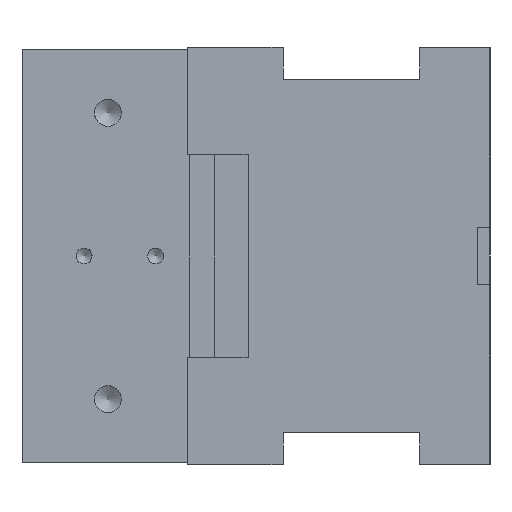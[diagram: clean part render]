
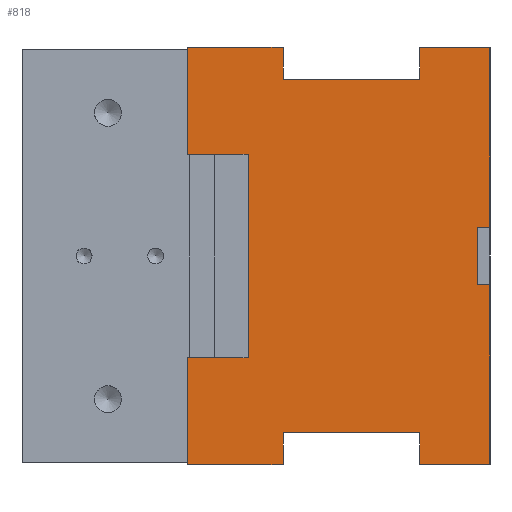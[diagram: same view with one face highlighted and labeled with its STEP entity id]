
A CAD part, left-side view. The second image highlights one B-rep face of the part: STEP entity #818.
In plain terms, the highlighted planar face has unit normal (-1, 0, 0).
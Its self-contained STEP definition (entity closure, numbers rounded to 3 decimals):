
#818=ADVANCED_FACE('',(#2070),#2072,.F.);
#2070=FACE_BOUND('',#2071,.T.);
#2071=EDGE_LOOP('',(#2886,#2887,#2888,#2889,#2890,#2891,#2892,#2893,#2894,#2895,
#2896,#2897,#2898,#2899,#2900,#2901,#2902,#2903,#2904,#2905));
#2072=PLANE('',#2073);
#2073=AXIS2_PLACEMENT_3D('',#2074,#2075,#2076);
#2074=CARTESIAN_POINT('',(-205.,0.,0.));
#2075=DIRECTION('',(1.,0.,-0.));
#2076=DIRECTION('',(-0.,0.,-1.));
#2886=ORIENTED_EDGE('',*,*,#3422,.F.);
#2887=ORIENTED_EDGE('',*,*,#3423,.F.);
#2888=ORIENTED_EDGE('',*,*,#3424,.T.);
#2889=ORIENTED_EDGE('',*,*,#3411,.F.);
#2890=ORIENTED_EDGE('',*,*,#3425,.F.);
#2891=ORIENTED_EDGE('',*,*,#3426,.F.);
#2892=ORIENTED_EDGE('',*,*,#3427,.F.);
#2893=ORIENTED_EDGE('',*,*,#3428,.F.);
#2894=ORIENTED_EDGE('',*,*,#3429,.F.);
#2895=ORIENTED_EDGE('',*,*,#3430,.F.);
#2896=ORIENTED_EDGE('',*,*,#3431,.F.);
#2897=ORIENTED_EDGE('',*,*,#3432,.F.);
#2898=ORIENTED_EDGE('',*,*,#3433,.F.);
#2899=ORIENTED_EDGE('',*,*,#3434,.F.);
#2900=ORIENTED_EDGE('',*,*,#3435,.F.);
#2901=ORIENTED_EDGE('',*,*,#3436,.F.);
#2902=ORIENTED_EDGE('',*,*,#3437,.F.);
#2903=ORIENTED_EDGE('',*,*,#3438,.F.);
#2904=ORIENTED_EDGE('',*,*,#3439,.F.);
#2905=ORIENTED_EDGE('',*,*,#3401,.F.);
#3401=EDGE_CURVE('',#3853,#3855,#3856,.T.);
#3411=EDGE_CURVE('',#3873,#3875,#3876,.T.);
#3422=EDGE_CURVE('',#3896,#3853,#3897,.T.);
#3423=EDGE_CURVE('',#3898,#3896,#3899,.T.);
#3424=EDGE_CURVE('',#3898,#3875,#3900,.T.);
#3425=EDGE_CURVE('',#3901,#3873,#3902,.T.);
#3426=EDGE_CURVE('',#3903,#3901,#3904,.T.);
#3427=EDGE_CURVE('',#3905,#3903,#3906,.T.);
#3428=EDGE_CURVE('',#3907,#3905,#3908,.T.);
#3429=EDGE_CURVE('',#3909,#3907,#3910,.T.);
#3430=EDGE_CURVE('',#3911,#3909,#3912,.T.);
#3431=EDGE_CURVE('',#3913,#3911,#3914,.T.);
#3432=EDGE_CURVE('',#3915,#3913,#3916,.T.);
#3433=EDGE_CURVE('',#3917,#3915,#3918,.T.);
#3434=EDGE_CURVE('',#3919,#3917,#3920,.T.);
#3435=EDGE_CURVE('',#3921,#3919,#3922,.T.);
#3436=EDGE_CURVE('',#3923,#3921,#3924,.T.);
#3437=EDGE_CURVE('',#3925,#3923,#3926,.T.);
#3438=EDGE_CURVE('',#3927,#3925,#3928,.T.);
#3439=EDGE_CURVE('',#3855,#3927,#3929,.T.);
#3853=VERTEX_POINT('',#6391);
#3855=VERTEX_POINT('',#6395);
#3856=LINE('',#6396,#6397);
#3873=VERTEX_POINT('',#6433);
#3875=VERTEX_POINT('',#6437);
#3876=LINE('',#6438,#6439);
#3896=VERTEX_POINT('',#6484);
#3897=LINE('',#6485,#6486);
#3898=VERTEX_POINT('',#6488);
#3899=LINE('',#6489,#6490);
#3900=LINE('',#6492,#6493);
#3901=VERTEX_POINT('',#6495);
#3902=LINE('',#6496,#6497);
#3903=VERTEX_POINT('',#6499);
#3904=LINE('',#6500,#6501);
#3905=VERTEX_POINT('',#6503);
#3906=LINE('',#6504,#6505);
#3907=VERTEX_POINT('',#6507);
#3908=LINE('',#6508,#6509);
#3909=VERTEX_POINT('',#6511);
#3910=LINE('',#6512,#6513);
#3911=VERTEX_POINT('',#6515);
#3912=LINE('',#6516,#6517);
#3913=VERTEX_POINT('',#6519);
#3914=LINE('',#6520,#6521);
#3915=VERTEX_POINT('',#6523);
#3916=LINE('',#6524,#6525);
#3917=VERTEX_POINT('',#6527);
#3918=LINE('',#6528,#6529);
#3919=VERTEX_POINT('',#6531);
#3920=LINE('',#6532,#6533);
#3921=VERTEX_POINT('',#6535);
#3922=LINE('',#6536,#6537);
#3923=VERTEX_POINT('',#6539);
#3924=LINE('',#6540,#6541);
#3925=VERTEX_POINT('',#6543);
#3926=LINE('',#6544,#6545);
#3927=VERTEX_POINT('',#6547);
#3928=LINE('',#6548,#6549);
#3929=LINE('',#6551,#6552);
#6391=CARTESIAN_POINT('',(-205.,0.,-9.));
#6395=CARTESIAN_POINT('',(-205.,0.,-65.5));
#6396=CARTESIAN_POINT('',(-205.,0.,-9.));
#6397=VECTOR('',#6398,1.);
#6398=DIRECTION('',(0.,0.,-1.));
#6433=CARTESIAN_POINT('',(-205.,0.,65.5));
#6437=CARTESIAN_POINT('',(-205.,-0.,9.));
#6438=CARTESIAN_POINT('',(-205.,0.,65.5));
#6439=VECTOR('',#6440,1.);
#6440=DIRECTION('',(0.,0.,-1.));
#6484=CARTESIAN_POINT('',(-205.,4.,-9.));
#6485=CARTESIAN_POINT('',(-205.,4.,-9.));
#6486=VECTOR('',#6487,1.);
#6487=DIRECTION('',(0.,-1.,0.));
#6488=CARTESIAN_POINT('',(-205.,4.,9.));
#6489=CARTESIAN_POINT('',(-205.,4.,9.));
#6490=VECTOR('',#6491,1.);
#6491=DIRECTION('',(0.,0.,-1.));
#6492=CARTESIAN_POINT('',(-205.,4.,9.));
#6493=VECTOR('',#6494,1.);
#6494=DIRECTION('',(0.,-1.,0.));
#6495=CARTESIAN_POINT('',(-205.,22.,65.5));
#6496=CARTESIAN_POINT('',(-205.,22.,65.5));
#6497=VECTOR('',#6498,1.);
#6498=DIRECTION('',(0.,-1.,0.));
#6499=CARTESIAN_POINT('',(-205.,22.,55.5));
#6500=CARTESIAN_POINT('',(-205.,22.,55.5));
#6501=VECTOR('',#6502,1.);
#6502=DIRECTION('',(0.,0.,1.));
#6503=CARTESIAN_POINT('',(-205.,65.,55.5));
#6504=CARTESIAN_POINT('',(-205.,65.,55.5));
#6505=VECTOR('',#6506,1.);
#6506=DIRECTION('',(0.,-1.,0.));
#6507=CARTESIAN_POINT('',(-205.,65.,65.5));
#6508=CARTESIAN_POINT('',(-205.,65.,65.5));
#6509=VECTOR('',#6510,1.);
#6510=DIRECTION('',(0.,0.,-1.));
#6511=CARTESIAN_POINT('',(-205.,95.,65.5));
#6512=CARTESIAN_POINT('',(-205.,95.,65.5));
#6513=VECTOR('',#6514,1.);
#6514=DIRECTION('',(0.,-1.,0.));
#6515=CARTESIAN_POINT('',(-205.,95.,32.));
#6516=CARTESIAN_POINT('',(-205.,95.,32.));
#6517=VECTOR('',#6518,1.);
#6518=DIRECTION('',(0.,0.,1.));
#6519=CARTESIAN_POINT('',(-205.,76.,32.));
#6520=CARTESIAN_POINT('',(-205.,76.,32.));
#6521=VECTOR('',#6522,1.);
#6522=DIRECTION('',(0.,1.,0.));
#6523=CARTESIAN_POINT('',(-205.,76.,-32.));
#6524=CARTESIAN_POINT('',(-205.,76.,-32.));
#6525=VECTOR('',#6526,1.);
#6526=DIRECTION('',(0.,0.,1.));
#6527=CARTESIAN_POINT('',(-205.,95.,-32.));
#6528=CARTESIAN_POINT('',(-205.,95.,-32.));
#6529=VECTOR('',#6530,1.);
#6530=DIRECTION('',(0.,-1.,0.));
#6531=CARTESIAN_POINT('',(-205.,95.,-65.5));
#6532=CARTESIAN_POINT('',(-205.,95.,-65.5));
#6533=VECTOR('',#6534,1.);
#6534=DIRECTION('',(0.,0.,1.));
#6535=CARTESIAN_POINT('',(-205.,65.,-65.5));
#6536=CARTESIAN_POINT('',(-205.,65.,-65.5));
#6537=VECTOR('',#6538,1.);
#6538=DIRECTION('',(0.,1.,0.));
#6539=CARTESIAN_POINT('',(-205.,65.,-55.5));
#6540=CARTESIAN_POINT('',(-205.,65.,-55.5));
#6541=VECTOR('',#6542,1.);
#6542=DIRECTION('',(0.,0.,-1.));
#6543=CARTESIAN_POINT('',(-205.,22.,-55.5));
#6544=CARTESIAN_POINT('',(-205.,22.,-55.5));
#6545=VECTOR('',#6546,1.);
#6546=DIRECTION('',(0.,1.,0.));
#6547=CARTESIAN_POINT('',(-205.,22.,-65.5));
#6548=CARTESIAN_POINT('',(-205.,22.,-65.5));
#6549=VECTOR('',#6550,1.);
#6550=DIRECTION('',(0.,0.,1.));
#6551=CARTESIAN_POINT('',(-205.,0.,-65.5));
#6552=VECTOR('',#6553,1.);
#6553=DIRECTION('',(0.,1.,0.));
